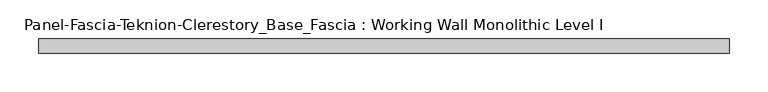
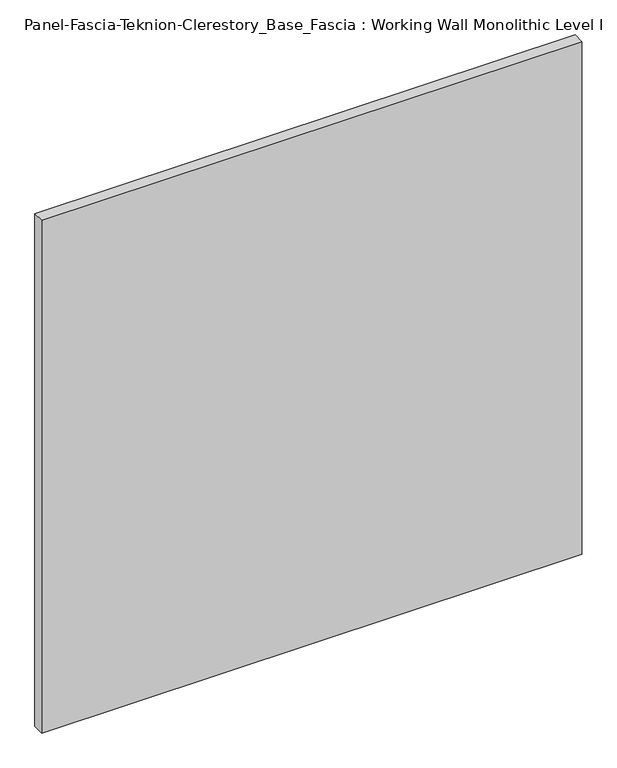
"""IFC4 building model written with IfcOpenShell, lengths in millimetres: proxy geometry, Panel-Fascia-Teknion-Clerestory_Base_Fascia : Working Wall Monolithic Level I."""

from ifc_helpers import new_model, si_unit, frame, origin, place, context, project, spatial, polyline, outline, extrude, source, transform, mapped, element, save


def panel_fascia_teknion_clerestory_base_fascia_working_wall_dc28b561(model_context):
    return source(origin(), model_context, "Body", "SweptSolid", [
        extrude(outline(polyline([(447.6198344, -9.525), (-447.6198344, -9.525), (-447.6198344, 9.525), (447.6198344, 9.525), (447.6198344, -9.525)])), frame((0.0, 0.0, 3.175), z_axis=(0.0, 0.0, 1.0), x_axis=(1.0, 0.0, 0.0)), (0.0, 0.0, 1.0), 898.525),
    ])


if __name__ == "__main__":
    model = new_model("IFC4")
    model_context = context("Model", 3, world=origin())
    ifc_project = project(units=[si_unit("LENGTHUNIT", "METRE", prefix="MILLI")], contexts=[model_context])
    site = spatial("IfcSite", under=ifc_project)
    building = spatial("IfcBuilding", under=site)
    placement = place(None, origin())
    panel_fascia_teknion_clerestory_base_fascia_working_wall_shape = panel_fascia_teknion_clerestory_base_fascia_working_wall_dc28b561(model_context)
    element("IfcBuildingElementProxy", 1, Name="Panel-Fascia-Teknion-Clerestory_Base_Fascia : Working Wall Monolithic Level I", ObjectType="Panel-Fascia-Teknion-Clerestory_Base_Fascia : Working Wall Monolithic Level I", at=placement, inside=building, context=model_context, shape_type="MappedRepresentation", body=[
        mapped(panel_fascia_teknion_clerestory_base_fascia_working_wall_shape, transform((0.0, 0.0, 0.0), x_axis=(1.0, 0.0, 0.0), y_axis=(0.0, 1.0, 0.0), z_axis=(0.0, 0.0, 1.0))),
    ])
    save(model, "model.ifc")
